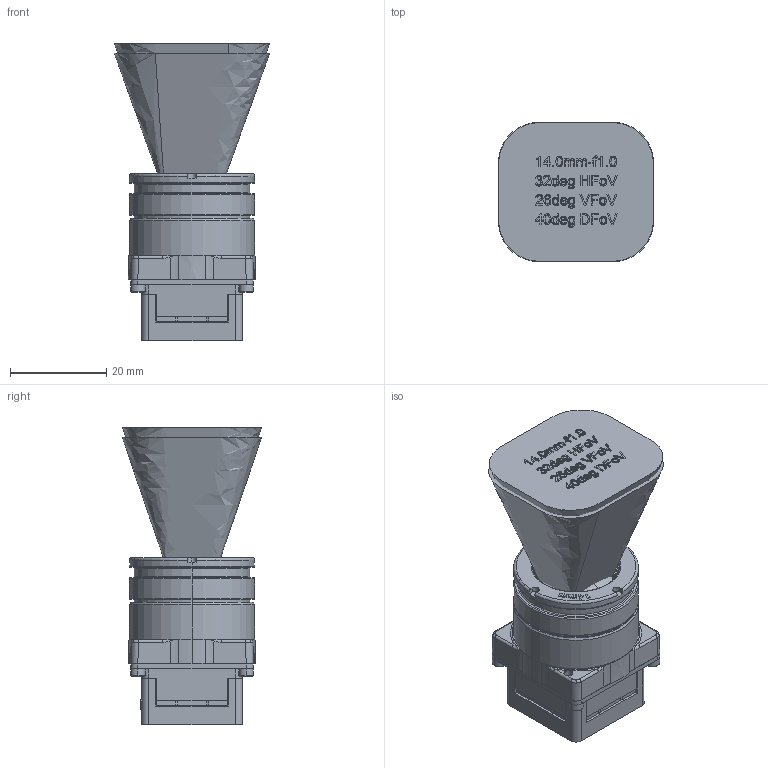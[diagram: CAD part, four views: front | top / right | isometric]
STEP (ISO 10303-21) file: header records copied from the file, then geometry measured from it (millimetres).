
FILE_DESCRIPTION (( 'STEP AP214' ), '1' );
FILE_NAME ('Boson 640SL, 14.0mm-f1.0, 32deg HFoV 9Hz.STEP', '2016-12-06T23:26:55', ( '' ), ( '' ), 'SwSTEP 2.0', 'SolidWorks 2016', '' );
FILE_SCHEMA (( 'AUTOMOTIVE_DESIGN' ));
Length unit declared in the file: millimetre
Products named in the file (11): Lens Holder, M24x0.5-BosonSL 640; Adapter Plate, Boson 640 M24; Optical Area 14.0mm-f1.0, Boson 640; Screw SHC, M-1.6 x 0.35 x 4; Lens Assy, 14mm-f1.0; Label, Boson Camera 9Hz; Screw FLPH M1.6x0.35 x 6mm L; PCBA Boson Main; Boson Frame, Main Board; Sensor Module, Boson 640; Boson 640SL, 14.0mm-f1.0, 32deg HFoV 9Hz
Assembly tree (16 placements, depth 2):
  Boson 640SL, 14.0mm-f1.0, 32deg HFoV 9Hz
    Sensor Module, Boson 640
    Boson Frame, Main Board
    PCBA Boson Main
    Screw FLPH M1.6x0.35 x 6mm L  x4
    Label, Boson Camera 9Hz
    Lens Assy, 14mm-f1.0
    Screw SHC, M-1.6 x 0.35 x 4  x4
    Optical Area 14.0mm-f1.0, Boson 640
    Adapter Plate, Boson 640 M24
    Lens Holder, M24x0.5-BosonSL 640
Bounding box: 32.28 x 28.98 x 61.87 mm (x, y, z)
Volume: 32558.9 mm3; surface area: 19161.8 mm2
Topology: 20 solids, 20 shells, 3648 faces, 9768 edges, 6360 vertices
Faces by surface type: plane 2231, cylinder 655, bspline 544, cone 160, torus 58
Entity records: 165261 total; most frequent: CARTESIAN_POINT 47854, ORIENTED_EDGE 18698, DIRECTION 15503, EDGE_CURVE 9349, VECTOR 6649, LINE 6649, VERTEX_POINT 6138, AXIS2_PLACEMENT_3D 4427
